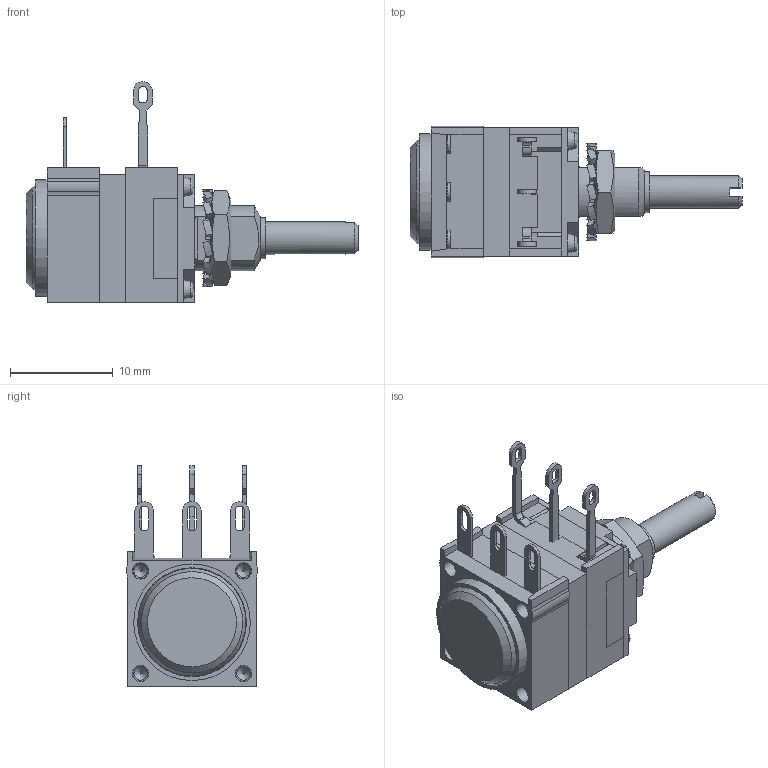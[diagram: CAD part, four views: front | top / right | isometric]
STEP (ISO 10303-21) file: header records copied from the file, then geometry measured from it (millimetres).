
FILE_DESCRIPTION(/* description */ (' '),/* implementation_level */ '2;1');
FILE_NAME(/* name */ 'P11S3A0BGSY03_103',/* time_stamp */ '2025-02-22T17:33:17+01:00',/* author */ (' '),/* organization */ (' '),/* preprocessor_version */ 'ST-DEVELOPER v19.4',/* originating_system */ 'Solid Edge',/* authorisation */ 'Unknown');
FILE_SCHEMA (('AUTOMOTIVE_DESIGN {1 0 10303 214 3 1 1}'));
Length unit declared in the file: millimetre
Products named in the file (17): P11S3A0BGSY03_103; 3656830; 3656390; 3Y0RSID3_oa_0; 3601000-position1; 3601200; 3601600; 3601800; 3601400; 3650540; Y00-103I_oa_1; 3650993; bande à chas; 3430230; 3430600; DEMI SPACER_oa_2; 3656010-position1
Assembly tree (16 placements, depth 3):
  P11S3A0BGSY03_103
    3656830
    3656390
    3Y0RSID3_oa_0
      3601000-position1
      3601200
      3601600
      3601800
      3601400
    3650540
    Y00-103I_oa_1
      3650993
      bande à chas
    3430230
    3430600
    DEMI SPACER_oa_2
      3656010-position1
Bounding box: 32.32 x 12.79 x 21.5 mm (x, y, z)
Volume: 1749.3 mm3; surface area: 4492.8 mm2
Topology: 15 solids, 15 shells, 816 faces, 2165 edges, 1434 vertices
Faces by surface type: plane 469, cylinder 188, cone 81, bspline 66, torus 12
Full cylindrical faces by diameter (mm): 0.996 x4, 1.3 x16, 1.5 x14, 1.55 x4, 2.55 x1, 2.6 x1, 2.66 x1, 3.17 x1, 3.8 x1, 4 x1, 4.1 x2, 5 x1, 5.25 x2, 5.491 x1, 6.4 x1, 6.65 x1, 7.42 x1, 7.44 x3, 8.4 x1, 9.65 x1, 10.6 x3, 11.35 x3
Entity records: 25799 total; most frequent: CARTESIAN_POINT 5680, ORIENTED_EDGE 3918, DIRECTION 3812, EDGE_CURVE 1959, VERTEX_POINT 1371, LINE 1286, VECTOR 1286, AXIS2_PLACEMENT_3D 1263
